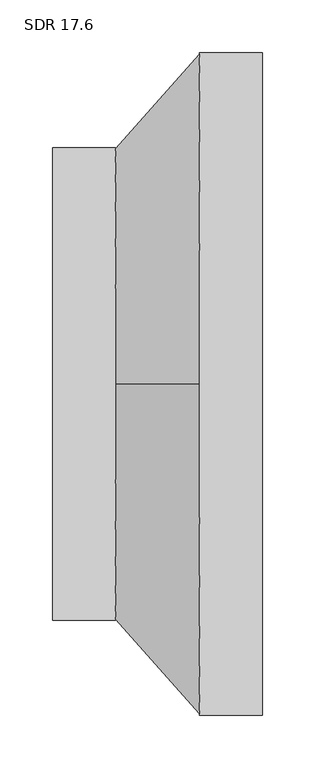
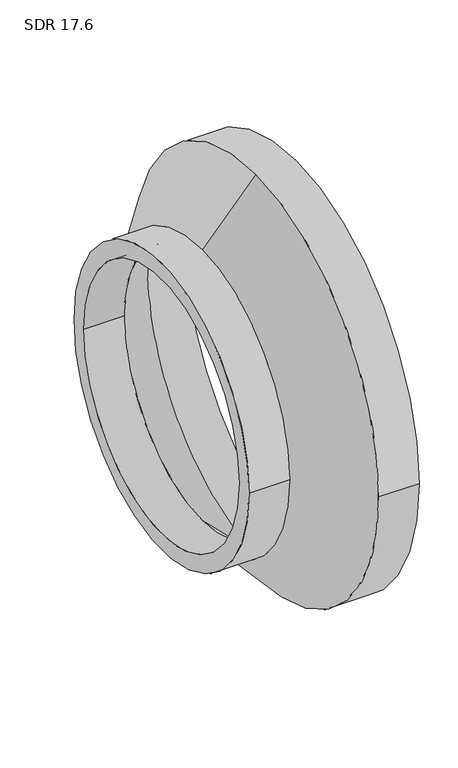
"""IFC4 building model written with IfcOpenShell, lengths in millimetres: pipe fitting geometry, Aquatherm - Reducing Coupling Combined - METRIC : SDR 17.6."""

from ifc_helpers import new_model, si_unit, frame, origin, place, context, project, spatial, polyline, circle_curve, source, transform, mapped, element, save
from ifc_brep_helpers import plane_surface, cylinder_surface, revolved_surface, advanced_brep


def sdr_17_6_30c781d8(model_context):
    return source(origin(), model_context, "Body", "AdvancedBrep", [
        advanced_brep(
        [(-99.949, -224.79, 0.0), (-99.949, 224.79, 0.0), (-99.949, -199.2456818, 0.0), (-99.949, 199.2456818, 0.0), (-39.9796, 199.2456818, 0.0), (-39.9796, 0.0, 199.2456818), (-39.9796, -199.2456818, 0.0), (-39.9796, 0.0, -199.2456818), (-39.9796, 224.79, 0.0), (-39.9796, 0.0, -224.79), (-39.9796, -224.79, 0.0), (-39.9796, 0.0, 224.79), (99.949, -314.96, 0.0), (99.949, 314.96, 0.0), (99.949, -279.1690909, 0.0), (99.949, 279.1690909, 0.0), (39.9796, -314.96, 0.0), (39.9796, 0.0, -314.96), (39.9796, 314.96, 0.0), (39.9796, 0.0, 314.96), (39.9796, -279.1690909, 0.0), (39.9796, 0.0, 279.1690909), (39.9796, 279.1690909, 0.0), (39.9796, 0.0, -279.1690909)],
        [
            (0, 1, circle_curve(frame((-99.949, 0.0, 0.0), z_axis=(-1.0, 0.0, 0.0), x_axis=(0.0, 1.0, 0.0)), 224.79)),
            (1, 0, circle_curve(frame((-99.949, 0.0, 0.0), z_axis=(-1.0, 0.0, 0.0), x_axis=(0.0, 1.0, 0.0)), 224.79)),
            (2, 3, circle_curve(frame((-99.949, 0.0, 0.0), z_axis=(1.0, 0.0, 0.0), x_axis=(0.0, 1.0, 0.0)), 199.2456818)),
            (3, 2, circle_curve(frame((-99.949, 0.0, 0.0), z_axis=(1.0, 0.0, 0.0), x_axis=(0.0, 1.0, 0.0)), 199.2456818)),
            (3, 4),
            (4, 5, circle_curve(frame((-39.9796, 0.0, 0.0), z_axis=(1.0, 0.0, 0.0), x_axis=(0.0, 1.0, 0.0)), 199.2456818)),
            (5, 6, circle_curve(frame((-39.9796, 0.0, 0.0), z_axis=(1.0, 0.0, 0.0), x_axis=(0.0, 1.0, 0.0)), 199.2456818)),
            (6, 2),
            (6, 7, circle_curve(frame((-39.9796, 0.0, 0.0), z_axis=(1.0, 0.0, 0.0), x_axis=(0.0, 1.0, 0.0)), 199.2456818)),
            (7, 4, circle_curve(frame((-39.9796, 0.0, 0.0), z_axis=(1.0, 0.0, 0.0), x_axis=(0.0, 1.0, 0.0)), 199.2456818)),
            (1, 8),
            (8, 9, circle_curve(frame((-39.9796, 0.0, 0.0), z_axis=(-1.0, 0.0, 0.0), x_axis=(0.0, 1.0, 0.0)), 224.79)),
            (9, 10, circle_curve(frame((-39.9796, 0.0, 0.0), z_axis=(-1.0, 0.0, 0.0), x_axis=(0.0, 1.0, 0.0)), 224.79)),
            (10, 0),
            (10, 11, circle_curve(frame((-39.9796, 0.0, 0.0), z_axis=(-1.0, 0.0, 0.0), x_axis=(0.0, 1.0, 0.0)), 224.79)),
            (11, 8, circle_curve(frame((-39.9796, 0.0, 0.0), z_axis=(-1.0, 0.0, 0.0), x_axis=(0.0, 1.0, 0.0)), 224.79)),
            (12, 13, circle_curve(frame((99.949, 0.0, 0.0), z_axis=(1.0, 0.0, 0.0), x_axis=(0.0, 1.0, 0.0)), 314.96)),
            (13, 12, circle_curve(frame((99.949, 0.0, 0.0), z_axis=(1.0, 0.0, 0.0), x_axis=(0.0, 1.0, 0.0)), 314.96)),
            (14, 15, circle_curve(frame((99.949, 0.0, 0.0), z_axis=(-1.0, 0.0, 0.0), x_axis=(0.0, 1.0, 0.0)), 279.1690909)),
            (15, 14, circle_curve(frame((99.949, 0.0, 0.0), z_axis=(-1.0, 0.0, 0.0), x_axis=(0.0, 1.0, 0.0)), 279.1690909)),
            (12, 16),
            (16, 17, circle_curve(frame((39.9796, 0.0, 0.0), z_axis=(1.0, 0.0, 0.0), x_axis=(0.0, 1.0, 0.0)), 314.96)),
            (17, 18, circle_curve(frame((39.9796, 0.0, 0.0), z_axis=(1.0, 0.0, 0.0), x_axis=(0.0, 1.0, 0.0)), 314.96)),
            (18, 13),
            (18, 19, circle_curve(frame((39.9796, 0.0, 0.0), z_axis=(1.0, 0.0, 0.0), x_axis=(0.0, 1.0, 0.0)), 314.96)),
            (19, 16, circle_curve(frame((39.9796, 0.0, 0.0), z_axis=(1.0, 0.0, 0.0), x_axis=(0.0, 1.0, 0.0)), 314.96)),
            (14, 20),
            (20, 21, circle_curve(frame((39.9796, 0.0, 0.0), z_axis=(-1.0, 0.0, 0.0), x_axis=(0.0, 1.0, 0.0)), 279.1690909)),
            (21, 22, circle_curve(frame((39.9796, 0.0, 0.0), z_axis=(-1.0, 0.0, 0.0), x_axis=(0.0, 1.0, 0.0)), 279.1690909)),
            (22, 15),
            (22, 23, circle_curve(frame((39.9796, 0.0, 0.0), z_axis=(-1.0, 0.0, 0.0), x_axis=(0.0, 1.0, 0.0)), 279.1690909)),
            (23, 20, circle_curve(frame((39.9796, 0.0, 0.0), z_axis=(-1.0, 0.0, 0.0), x_axis=(0.0, 1.0, 0.0)), 279.1690909)),
            (11, 19),
            (17, 9),
            (21, 5),
            (7, 23),
        ],
        [
            plane_surface(frame((-99.949, 199.2456818, 0.0), z_axis=(-1.0, 0.0, 0.0), x_axis=(0.0, 0.0, 1.0))),
            revolved_surface(polyline([(-99.949, 199.2456818, 0.0), (-39.9796, 199.2456818, 0.0)]), (-99.949, 0.0, 0.0), (-1.0, 0.0, 0.0)),
            cylinder_surface(frame((0.0, 0.0, 0.0), z_axis=(1.0, 0.0, 0.0), x_axis=(0.0, 1.0, 0.0)), 224.79),
            plane_surface(frame((99.949, 314.96, 0.0), z_axis=(1.0, 0.0, 0.0), x_axis=(0.0, 0.0, 1.0))),
            cylinder_surface(frame((39.9796, 0.0, 0.0), z_axis=(1.0, 0.0, 0.0), x_axis=(0.0, 1.0, 0.0)), 314.96),
            revolved_surface(polyline([(39.9796, 279.1690909, 0.0), (99.949, 279.1690909, 0.0)]), (0.0, 0.0, 0.0), (-1.0, 0.0, 0.0)),
            revolved_surface(polyline([(39.9796, 0.0, 314.96), (-39.9796, 0.0, 224.79)]), (-675.2085384, 0.0, 0.0), (-1.0, 0.0, 0.0)),
            revolved_surface(polyline([(-39.9796, 0.0, 199.2456818), (39.9796, 0.0, 279.1690909)]), (-675.2085384, 0.0, 0.0), (-1.0, 0.0, 0.0)),
        ],
        [
            (0, [[1, 2], [3, 4]]),
            (1, [[-4, 5, 6, 7, 8]]),
            (1, [[-3, -8, 9, 10, -5]]),
            (2, [[-2, 11, 12, 13, 14]]),
            (2, [[-1, -14, 15, 16, -11]]),
            (3, [[17, 18], [19, 20]]),
            (4, [[-17, 21, 22, 23, 24]]),
            (4, [[-18, -24, 25, 26, -21]]),
            (5, [[-19, 27, 28, 29, 30]]),
            (5, [[-20, -30, 31, 32, -27]]),
            (6, [[33, -25, -23, 34, -12, -16]]),
            (6, [[-33, -15, -13, -34, -22, -26]]),
            (7, [[35, -6, -10, 36, -31, -29]]),
            (7, [[-35, -28, -32, -36, -9, -7]]),
        ],
    ),
    ])


if __name__ == "__main__":
    model = new_model("IFC4")
    model_context = context("Model", 3, world=origin())
    ifc_project = project(units=[si_unit("LENGTHUNIT", "METRE", prefix="MILLI")], contexts=[model_context])
    site = spatial("IfcSite", under=ifc_project)
    building = spatial("IfcBuilding", under=site)
    placement = place(None, origin())
    sdr_17_6_shape = sdr_17_6_30c781d8(model_context)
    element("IfcPipeFitting", 1, ObjectType="Aquatherm - Reducing Coupling Combined - METRIC : SDR 17.6", at=placement, inside=building, context=model_context, shape_type="MappedRepresentation", body=[
        mapped(sdr_17_6_shape, transform((0.0, 0.0, 0.0), x_axis=(1.0, 0.0, 0.0), y_axis=(0.0, 1.0, 0.0), z_axis=(0.0, 0.0, 1.0))),
    ])
    save(model, "model.ifc")
